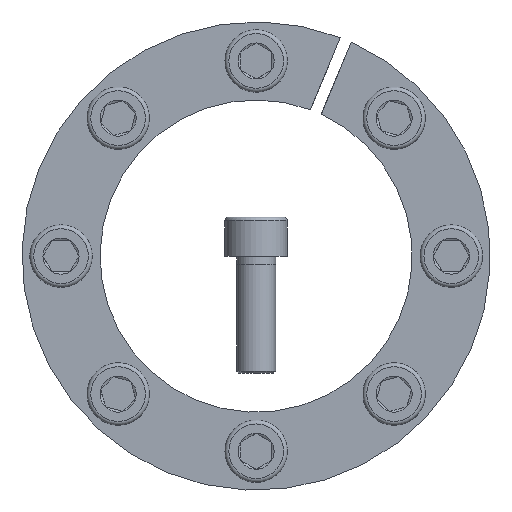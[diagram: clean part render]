
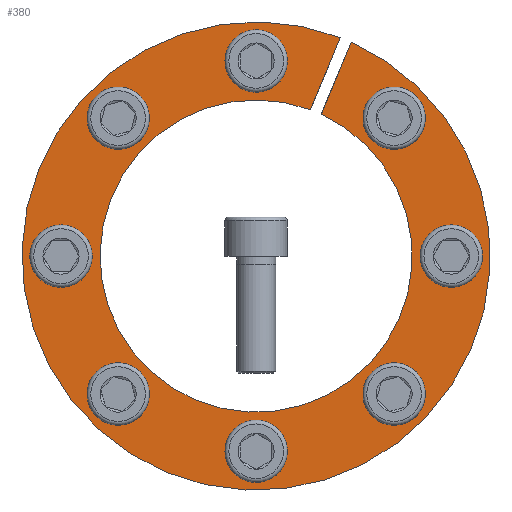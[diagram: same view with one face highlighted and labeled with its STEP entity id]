
A CAD part, front view. The second image highlights one B-rep face of the part: STEP entity #380.
In plain terms, the highlighted planar face has unit normal (0, -1, 0).
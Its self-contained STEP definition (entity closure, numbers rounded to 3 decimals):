
#380 = ADVANCED_FACE( '', ( #583, #584, #585, #586, #587, #588, #589, #590, #591 ), #592, .F. );
#583 = FACE_BOUND( '', #747, .T. );
#584 = FACE_BOUND( '', #748, .T. );
#585 = FACE_BOUND( '', #749, .T. );
#586 = FACE_BOUND( '', #750, .T. );
#587 = FACE_OUTER_BOUND( '', #751, .T. );
#588 = FACE_BOUND( '', #752, .T. );
#589 = FACE_BOUND( '', #753, .T. );
#590 = FACE_BOUND( '', #754, .T. );
#591 = FACE_BOUND( '', #755, .T. );
#592 = PLANE( '', #756 );
#747 = EDGE_LOOP( '', ( #960 ) );
#748 = EDGE_LOOP( '', ( #961 ) );
#749 = EDGE_LOOP( '', ( #962 ) );
#750 = EDGE_LOOP( '', ( #963 ) );
#751 = EDGE_LOOP( '', ( #964, #965, #966, #967 ) );
#752 = EDGE_LOOP( '', ( #968 ) );
#753 = EDGE_LOOP( '', ( #969 ) );
#754 = EDGE_LOOP( '', ( #970 ) );
#755 = EDGE_LOOP( '', ( #971 ) );
#756 = AXIS2_PLACEMENT_3D( '', #972, #973, #974 );
#960 = ORIENTED_EDGE( '', *, *, #1294, .T. );
#961 = ORIENTED_EDGE( '', *, *, #1295, .T. );
#962 = ORIENTED_EDGE( '', *, *, #1296, .T. );
#963 = ORIENTED_EDGE( '', *, *, #1297, .T. );
#964 = ORIENTED_EDGE( '', *, *, #1292, .F. );
#965 = ORIENTED_EDGE( '', *, *, #1288, .F. );
#966 = ORIENTED_EDGE( '', *, *, #1298, .T. );
#967 = ORIENTED_EDGE( '', *, *, #1299, .F. );
#968 = ORIENTED_EDGE( '', *, *, #1300, .T. );
#969 = ORIENTED_EDGE( '', *, *, #1301, .T. );
#970 = ORIENTED_EDGE( '', *, *, #1302, .T. );
#971 = ORIENTED_EDGE( '', *, *, #1303, .T. );
#972 = CARTESIAN_POINT( '', ( 0., 0., 60. ) );
#973 = DIRECTION( '', ( 0., 1., 0. ) );
#974 = DIRECTION( '', ( 0., 0., 1. ) );
#1288 = EDGE_CURVE( '', #1423, #1425, #1426, .T. );
#1292 = EDGE_CURVE( '', #1425, #1432, #1433, .T. );
#1294 = EDGE_CURVE( '', #1435, #1435, #1436, .T. );
#1295 = EDGE_CURVE( '', #1437, #1437, #1438, .T. );
#1296 = EDGE_CURVE( '', #1439, #1439, #1440, .T. );
#1297 = EDGE_CURVE( '', #1441, #1441, #1442, .T. );
#1298 = EDGE_CURVE( '', #1423, #1443, #1444, .T. );
#1299 = EDGE_CURVE( '', #1432, #1443, #1445, .T. );
#1300 = EDGE_CURVE( '', #1446, #1446, #1447, .T. );
#1301 = EDGE_CURVE( '', #1448, #1448, #1449, .T. );
#1302 = EDGE_CURVE( '', #1450, #1450, #1451, .T. );
#1303 = EDGE_CURVE( '', #1452, #1452, #1453, .T. );
#1423 = VERTEX_POINT( '', #1551 );
#1425 = VERTEX_POINT( '', #1554 );
#1426 = LINE( '', #1555, #1556 );
#1432 = VERTEX_POINT( '', #1564 );
#1433 = CIRCLE( '', #1565, 40. );
#1435 = VERTEX_POINT( '', #1568 );
#1436 = CIRCLE( '', #1569, 5. );
#1437 = VERTEX_POINT( '', #1570 );
#1438 = CIRCLE( '', #1571, 5. );
#1439 = VERTEX_POINT( '', #1572 );
#1440 = CIRCLE( '', #1573, 5. );
#1441 = VERTEX_POINT( '', #1574 );
#1442 = CIRCLE( '', #1575, 5. );
#1443 = VERTEX_POINT( '', #1576 );
#1444 = CIRCLE( '', #1577, 60. );
#1445 = LINE( '', #1578, #1579 );
#1446 = VERTEX_POINT( '', #1580 );
#1447 = CIRCLE( '', #1581, 5. );
#1448 = VERTEX_POINT( '', #1582 );
#1449 = CIRCLE( '', #1583, 5. );
#1450 = VERTEX_POINT( '', #1584 );
#1451 = CIRCLE( '', #1585, 5. );
#1452 = VERTEX_POINT( '', #1586 );
#1453 = CIRCLE( '', #1587, 5. );
#1551 = CARTESIAN_POINT( '', ( 21.568, 0., 55.989 ) );
#1554 = CARTESIAN_POINT( '', ( 13.911, 0., 37.503 ) );
#1555 = CARTESIAN_POINT( '', ( 21.575, 0., 56.007 ) );
#1556 = VECTOR( '', #1674, 1000. );
#1564 = CARTESIAN_POINT( '', ( 16.682, 0., 36.355 ) );
#1565 = AXIS2_PLACEMENT_3D( '', #1680, #1681, #1682 );
#1568 = CARTESIAN_POINT( '', ( -50., 0., 5. ) );
#1569 = AXIS2_PLACEMENT_3D( '', #1684, #1685, #1686 );
#1570 = CARTESIAN_POINT( '', ( -5., 0., -50. ) );
#1571 = AXIS2_PLACEMENT_3D( '', #1687, #1688, #1689 );
#1572 = CARTESIAN_POINT( '', ( 50., 0., -5. ) );
#1573 = AXIS2_PLACEMENT_3D( '', #1690, #1691, #1692 );
#1574 = CARTESIAN_POINT( '', ( 5., 0., 50. ) );
#1575 = AXIS2_PLACEMENT_3D( '', #1693, #1694, #1695 );
#1576 = CARTESIAN_POINT( '', ( 24.34, 0., 54.841 ) );
#1577 = AXIS2_PLACEMENT_3D( '', #1696, #1697, #1698 );
#1578 = CARTESIAN_POINT( '', ( 16.682, 0., 36.355 ) );
#1579 = VECTOR( '', #1699, 1000. );
#1580 = CARTESIAN_POINT( '', ( 38.891, 0., 31.82 ) );
#1581 = AXIS2_PLACEMENT_3D( '', #1700, #1701, #1702 );
#1582 = CARTESIAN_POINT( '', ( 31.82, 0., -38.891 ) );
#1583 = AXIS2_PLACEMENT_3D( '', #1703, #1704, #1705 );
#1584 = CARTESIAN_POINT( '', ( -38.891, 0., -31.82 ) );
#1585 = AXIS2_PLACEMENT_3D( '', #1706, #1707, #1708 );
#1586 = CARTESIAN_POINT( '', ( -31.82, 0., 38.891 ) );
#1587 = AXIS2_PLACEMENT_3D( '', #1709, #1710, #1711 );
#1674 = DIRECTION( '', ( -0.383, 0., -0.924 ) );
#1680 = CARTESIAN_POINT( '', ( 0., 0., 0. ) );
#1681 = DIRECTION( '', ( 0., -1., 0. ) );
#1682 = DIRECTION( '', ( 0., 0., -1. ) );
#1684 = CARTESIAN_POINT( '', ( -50., 0., 0. ) );
#1685 = DIRECTION( '', ( 0., 1., 0. ) );
#1686 = DIRECTION( '', ( 0., 0., 1. ) );
#1687 = CARTESIAN_POINT( '', ( 0., 0., -50. ) );
#1688 = DIRECTION( '', ( 0., 1., 0. ) );
#1689 = DIRECTION( '', ( -1., 0., 0. ) );
#1690 = CARTESIAN_POINT( '', ( 50., 0., 0. ) );
#1691 = DIRECTION( '', ( 0., 1., 0. ) );
#1692 = DIRECTION( '', ( 0., 0., -1. ) );
#1693 = CARTESIAN_POINT( '', ( 0., 0., 50. ) );
#1694 = DIRECTION( '', ( 0., 1., 0. ) );
#1695 = DIRECTION( '', ( 1., 0., 0. ) );
#1696 = CARTESIAN_POINT( '', ( 0., 0., 0. ) );
#1697 = DIRECTION( '', ( 0., -1., 0. ) );
#1698 = DIRECTION( '', ( 0., 0., -1. ) );
#1699 = DIRECTION( '', ( 0.383, 0., 0.924 ) );
#1700 = CARTESIAN_POINT( '', ( 35.355, 0., 35.355 ) );
#1701 = DIRECTION( '', ( 0., 1., 0. ) );
#1702 = DIRECTION( '', ( 0.707, 0., -0.707 ) );
#1703 = CARTESIAN_POINT( '', ( 35.355, 0., -35.355 ) );
#1704 = DIRECTION( '', ( 0., 1., 0. ) );
#1705 = DIRECTION( '', ( -0.707, 0., -0.707 ) );
#1706 = CARTESIAN_POINT( '', ( -35.355, 0., -35.355 ) );
#1707 = DIRECTION( '', ( 0., 1., 0. ) );
#1708 = DIRECTION( '', ( -0.707, 0., 0.707 ) );
#1709 = CARTESIAN_POINT( '', ( -35.355, 0., 35.355 ) );
#1710 = DIRECTION( '', ( 0., 1., 0. ) );
#1711 = DIRECTION( '', ( 0.707, 0., 0.707 ) );
